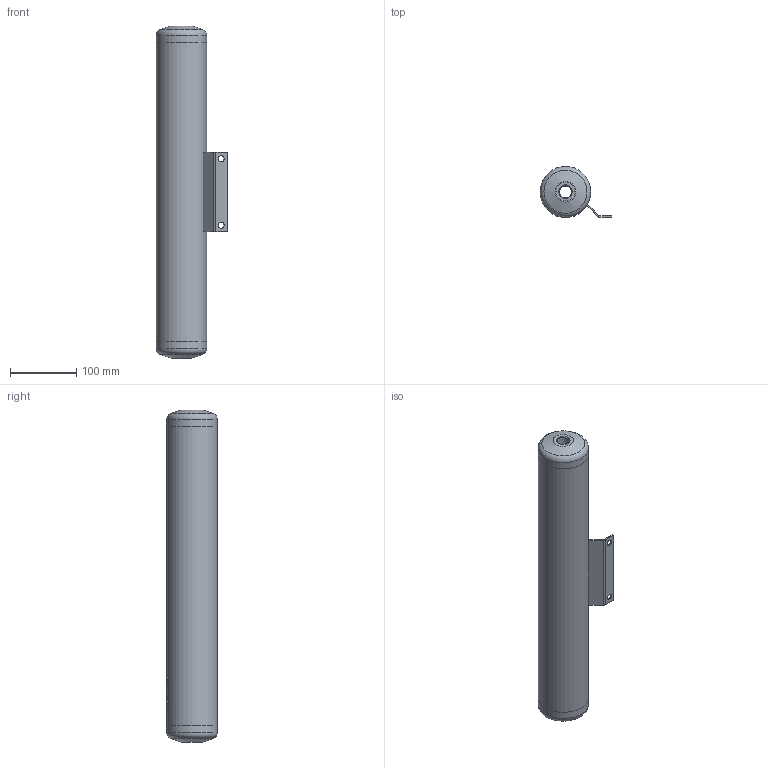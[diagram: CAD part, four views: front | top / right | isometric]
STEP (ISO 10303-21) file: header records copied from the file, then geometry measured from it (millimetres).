
FILE_DESCRIPTION(/* description */ (''),/* implementation_level */ '2;1');
FILE_NAME(/* name */ 'ATNL0020-SS 2.00L.stp',/* time_stamp */ '2022-11-07T13:23:43+01:00',/* author */ ('harm'),/* organization */ (''),/* preprocessor_version */ 'ST-DEVELOPER v19.2',/* originating_system */ 'Autodesk Inventor 2023',/* authorisation */ '');
FILE_SCHEMA (('AUTOMOTIVE_DESIGN { 1 0 10303 214 3 1 1 }'));
Length unit declared in the file: millimetre
Products named in the file (6): 11600; -; Cap; Bracket; -_1; Typeplaatje ATNL0020-SS
Assembly tree (7 placements, depth 2):
  11600
    -
    Cap  x2
    Bracket
    -_1  x2
    Typeplaatje ATNL0020-SS
Bounding box: 107.86 x 76.3 x 499.89 mm (x, y, z)
Volume: 258369.8 mm3; surface area: 261825.5 mm2
Topology: 7 solids, 7 shells, 2399 faces, 6422 edges, 4278 vertices
Faces by surface type: bspline 1366, plane 754, cylinder 263, torus 6, cone 6, sphere 4
Full cylindrical faces by diameter (mm): 9 x2, 18.631 x2, 26.5 x2, 31 x4, 72.1 x3, 76.1 x3
Entity records: 104965 total; most frequent: CARTESIAN_POINT 53612, ORIENTED_EDGE 12774, DIRECTION 6447, EDGE_CURVE 6387, VERTEX_POINT 4255, LINE 2903, VECTOR 2903, B_SPLINE_CURVE_WITH_KNOTS 2740
